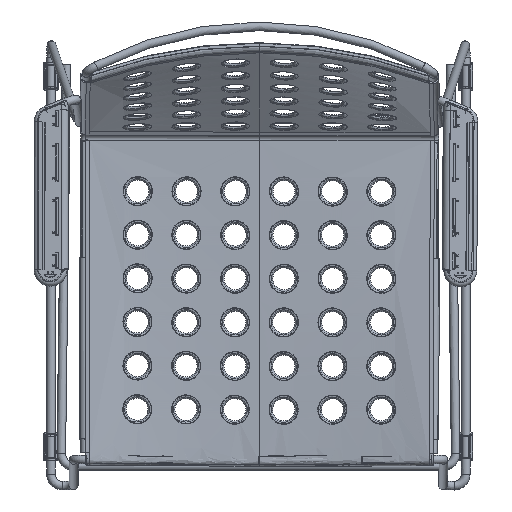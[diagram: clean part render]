
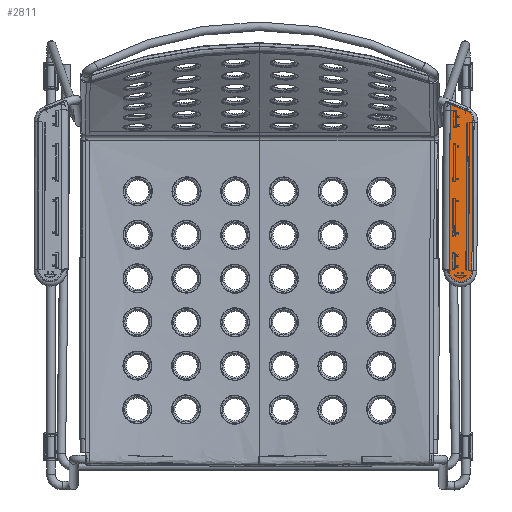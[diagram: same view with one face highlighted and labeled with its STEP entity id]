
A CAD part, top view. The second image highlights one B-rep face of the part: STEP entity #2811.
In plain terms, the highlighted planar face has unit normal (0.022, 0.069, 0.997).
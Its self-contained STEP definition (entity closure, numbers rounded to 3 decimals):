
#2811=ADVANCED_FACE('',(#9628),#9629,.F.);
#9628=FACE_OUTER_BOUND('',#32057,.T.);
#9629=PLANE('',#32058);
#32057=EDGE_LOOP('',(#63612,#63613,#63614,#63615,#63616,#63617));
#32058=AXIS2_PLACEMENT_3D('',#63618,#63619,#63620);
#63612=ORIENTED_EDGE('',*,*,#92723,.T.);
#63613=ORIENTED_EDGE('',*,*,#92193,.T.);
#63614=ORIENTED_EDGE('',*,*,#92195,.T.);
#63615=ORIENTED_EDGE('',*,*,#92999,.F.);
#63616=ORIENTED_EDGE('',*,*,#92727,.T.);
#63617=ORIENTED_EDGE('',*,*,#92725,.T.);
#63618=CARTESIAN_POINT('',(467.439,304.63,211.327));
#63619=DIRECTION('',(-0.022,-0.069,-0.997));
#63620=DIRECTION('',(0.007,0.998,-0.069));
#92193=EDGE_CURVE('',#105081,#105083,#105085,.F.);
#92195=EDGE_CURVE('',#105083,#105087,#105089,.T.);
#92723=EDGE_CURVE('',#105995,#105081,#105996,.T.);
#92725=EDGE_CURVE('',#105998,#105995,#105999,.F.);
#92727=EDGE_CURVE('',#106001,#105998,#106002,.F.);
#92999=EDGE_CURVE('',#106001,#105087,#106361,.T.);
#105081=VERTEX_POINT('',#142830);
#105083=VERTEX_POINT('',#142832);
#105085=CIRCLE('',#142834,14.5);
#105087=VERTEX_POINT('',#142836);
#105089=LINE('',#142838,#142839);
#105995=VERTEX_POINT('',#144382);
#105996=LINE('',#144383,#144384);
#105998=VERTEX_POINT('',#144386);
#105999=CIRCLE('',#144387,14.5);
#106001=VERTEX_POINT('',#144389);
#106002=CIRCLE('',#144390,14.5);
#106361=LINE('',#144937,#144938);
#142830=CARTESIAN_POINT('',(492.628,404.427,203.911));
#142832=CARTESIAN_POINT('',(483.538,417.963,203.183));
#142834=AXIS2_PLACEMENT_3D('',#178463,#178464,#178465);
#142836=CARTESIAN_POINT('',(463.783,425.917,203.076));
#142838=CARTESIAN_POINT('',(508.988,407.717,203.321));
#142839=VECTOR('',#178469,1.0);
#144382=CARTESIAN_POINT('',(491.304,214.139,217.013));
#144383=CARTESIAN_POINT('',(491.932,304.423,210.796));
#144384=VECTOR('',#179408,1.0);
#144386=CARTESIAN_POINT('',(476.707,199.796,218.323));
#144387=AXIS2_PLACEMENT_3D('',#179412,#179413,#179414);
#144389=CARTESIAN_POINT('',(462.312,214.384,217.641));
#144390=AXIS2_PLACEMENT_3D('',#179418,#179419,#179420);
#144937=CARTESIAN_POINT('',(462.94,304.668,211.424));
#144938=VECTOR('',#180035,1.0);
#178463=CARTESIAN_POINT('',(478.132,404.549,204.225));
#178464=DIRECTION('',(-0.022,-0.069,-0.997));
#178465=DIRECTION('',(0.007,0.998,-0.069));
#178469=DIRECTION('',(-0.928,0.373,-0.005));
#179408=DIRECTION('',(0.007,0.998,-0.069));
#179412=CARTESIAN_POINT('',(476.808,214.261,217.327));
#179413=DIRECTION('',(-0.022,-0.069,-0.997));
#179414=DIRECTION('',(0.007,0.998,-0.069));
#179418=CARTESIAN_POINT('',(476.808,214.261,217.327));
#179419=DIRECTION('',(-0.022,-0.069,-0.997));
#179420=DIRECTION('',(0.007,0.998,-0.069));
#180035=DIRECTION('',(0.007,0.998,-0.069));
